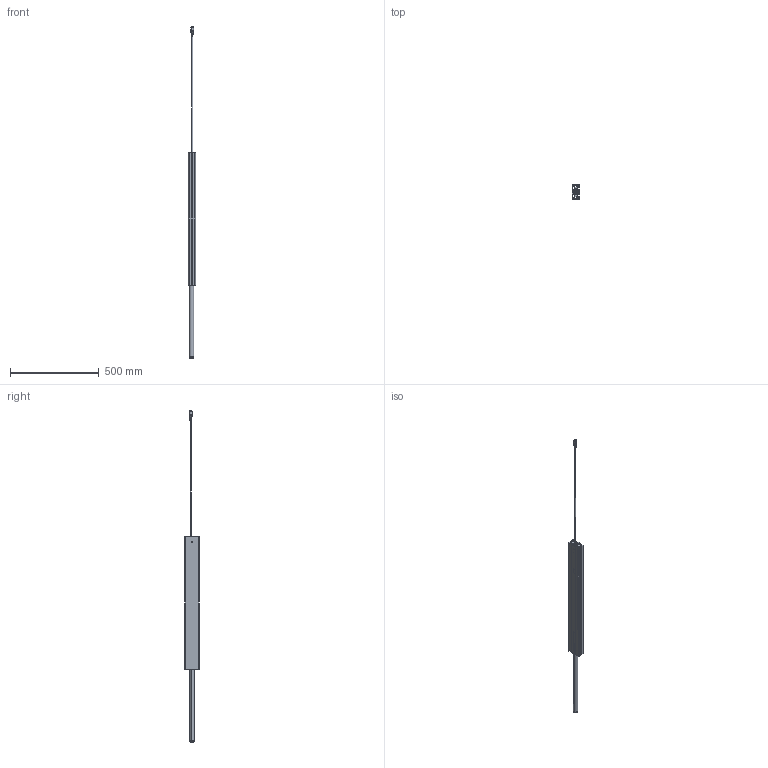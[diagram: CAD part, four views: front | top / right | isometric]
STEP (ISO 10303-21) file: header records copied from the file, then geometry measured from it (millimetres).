
FILE_DESCRIPTION (( 'STEP AP214' ), '1' );
FILE_NAME ('004 10271_ZB Actuator SMS-I-40x80_Hub400_ausgefahren.STEP', '2018-09-03T12:58:20', ( '' ), ( '' ), 'SwSTEP 2.0', 'SolidWorks 2017', '' );
FILE_SCHEMA (( 'AUTOMOTIVE_DESIGN' ));
Length unit declared in the file: millimetre
Products named in the file (1): 004 10271_ZB Actuator SMS-I-40x80_Hub400_ausgefahren
Bounding box: 40 x 80 x 1875.6 mm (x, y, z)
Surface area: 570573.1 mm2 (no closed solid volume)
Topology: 0 solids, 5 shells, 2847 faces, 7689 edges, 4710 vertices
Faces by surface type: bspline 910, plane 840, cylinder 679, cone 288, torus 85, sphere 45
Entity records: 161147 total; most frequent: CARTESIAN_POINT 85619, ORIENTED_EDGE 14906, DIRECTION 10443, EDGE_CURVE 7456, VERTEX_POINT 4704, AXIS2_PLACEMENT_3D 3996, EDGE_LOOP 2957, FACE_OUTER_BOUND 2847
